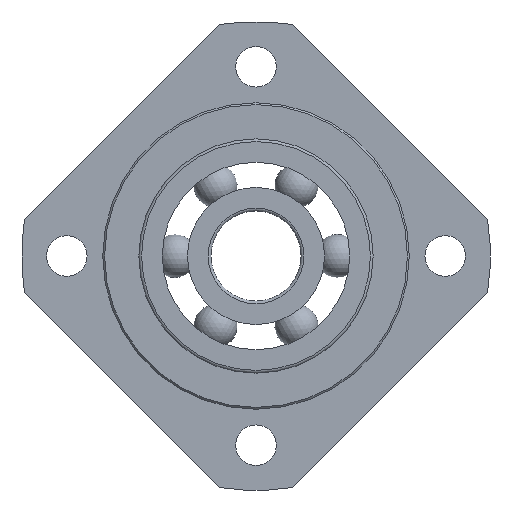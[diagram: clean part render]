
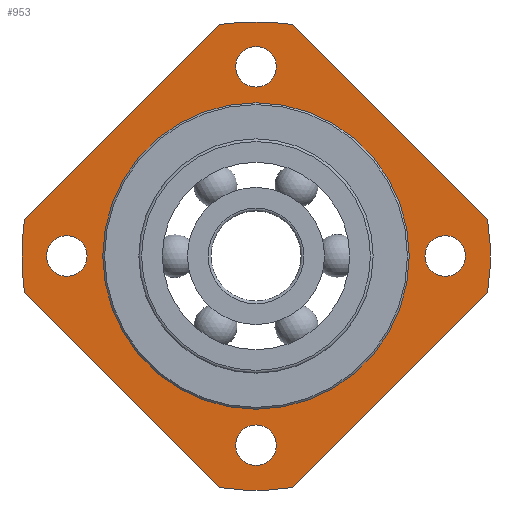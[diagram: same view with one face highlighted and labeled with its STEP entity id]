
A CAD part, left-side view. The second image highlights one B-rep face of the part: STEP entity #953.
In plain terms, the highlighted planar face has unit normal (-1, 0, 0).
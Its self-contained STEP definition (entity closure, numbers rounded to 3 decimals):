
#66=LINE('',#1614,#86);
#70=LINE('',#1623,#90);
#75=LINE('',#1663,#95);
#76=LINE('',#1664,#96);
#86=VECTOR('',#1255,30.659);
#90=VECTOR('',#1265,30.659);
#95=VECTOR('',#1316,30.659);
#96=VECTOR('',#1317,30.659);
#109=PLANE('',#1063);
#161=FACE_BOUND('',#317,.T.);
#162=FACE_BOUND('',#318,.T.);
#163=FACE_BOUND('',#319,.T.);
#164=FACE_BOUND('',#320,.T.);
#165=FACE_BOUND('',#321,.T.);
#227=FACE_OUTER_BOUND('',#316,.T.);
#316=EDGE_LOOP('',(#768,#769,#770,#771,#772,#773,#774,#775));
#317=EDGE_LOOP('',(#776));
#318=EDGE_LOOP('',(#777));
#319=EDGE_LOOP('',(#778));
#320=EDGE_LOOP('',(#779));
#321=EDGE_LOOP('',(#780));
#378=CIRCLE('',#995,17.);
#401=CIRCLE('',#1039,26.);
#402=CIRCLE('',#1042,26.);
#404=CIRCLE('',#1046,2.25);
#406=CIRCLE('',#1050,2.25);
#408=CIRCLE('',#1054,2.25);
#410=CIRCLE('',#1058,2.25);
#411=CIRCLE('',#1060,26.);
#412=CIRCLE('',#1062,26.);
#463=VERTEX_POINT('',#1497);
#494=VERTEX_POINT('',#1611);
#495=VERTEX_POINT('',#1613);
#496=VERTEX_POINT('',#1617);
#497=VERTEX_POINT('',#1621);
#498=VERTEX_POINT('',#1625);
#500=VERTEX_POINT('',#1632);
#502=VERTEX_POINT('',#1638);
#504=VERTEX_POINT('',#1644);
#506=VERTEX_POINT('',#1650);
#507=VERTEX_POINT('',#1653);
#508=VERTEX_POINT('',#1657);
#509=VERTEX_POINT('',#1659);
#548=EDGE_CURVE('',#463,#463,#378,.T.);
#588=EDGE_CURVE('',#494,#495,#66,.T.);
#591=EDGE_CURVE('',#494,#496,#401,.T.);
#593=EDGE_CURVE('',#497,#496,#70,.T.);
#595=EDGE_CURVE('',#497,#498,#402,.T.);
#597=EDGE_CURVE('',#500,#500,#404,.T.);
#599=EDGE_CURVE('',#502,#502,#406,.T.);
#601=EDGE_CURVE('',#504,#504,#408,.T.);
#603=EDGE_CURVE('',#506,#506,#410,.T.);
#604=EDGE_CURVE('',#507,#495,#411,.T.);
#607=EDGE_CURVE('',#509,#508,#412,.T.);
#609=EDGE_CURVE('',#509,#498,#75,.T.);
#610=EDGE_CURVE('',#507,#508,#76,.T.);
#768=ORIENTED_EDGE('',*,*,#591,.T.);
#769=ORIENTED_EDGE('',*,*,#593,.F.);
#770=ORIENTED_EDGE('',*,*,#595,.T.);
#771=ORIENTED_EDGE('',*,*,#609,.F.);
#772=ORIENTED_EDGE('',*,*,#607,.T.);
#773=ORIENTED_EDGE('',*,*,#610,.F.);
#774=ORIENTED_EDGE('',*,*,#604,.T.);
#775=ORIENTED_EDGE('',*,*,#588,.F.);
#776=ORIENTED_EDGE('',*,*,#548,.T.);
#777=ORIENTED_EDGE('',*,*,#597,.T.);
#778=ORIENTED_EDGE('',*,*,#599,.T.);
#779=ORIENTED_EDGE('',*,*,#601,.T.);
#780=ORIENTED_EDGE('',*,*,#603,.T.);
#953=ADVANCED_FACE('',(#227,#161,#162,#163,#164,#165),#109,.F.);
#995=AXIS2_PLACEMENT_3D('',#1498,#1160,#1161);
#1039=AXIS2_PLACEMENT_3D('',#1619,#1260,#1261);
#1042=AXIS2_PLACEMENT_3D('',#1627,#1269,#1270);
#1046=AXIS2_PLACEMENT_3D('',#1633,#1277,#1278);
#1050=AXIS2_PLACEMENT_3D('',#1639,#1285,#1286);
#1054=AXIS2_PLACEMENT_3D('',#1645,#1293,#1294);
#1058=AXIS2_PLACEMENT_3D('',#1651,#1301,#1302);
#1060=AXIS2_PLACEMENT_3D('',#1654,#1305,#1306);
#1062=AXIS2_PLACEMENT_3D('',#1660,#1311,#1312);
#1063=AXIS2_PLACEMENT_3D('',#1662,#1314,#1315);
#1160=DIRECTION('center_axis',(1.,0.,0.));
#1161=DIRECTION('ref_axis',(0.,0.,-1.));
#1255=DIRECTION('',(0.,0.707,-0.707));
#1260=DIRECTION('center_axis',(-1.,0.,0.));
#1261=DIRECTION('ref_axis',(0.,0.,1.));
#1265=DIRECTION('',(0.,-0.707,-0.707));
#1269=DIRECTION('center_axis',(-1.,0.,0.));
#1270=DIRECTION('ref_axis',(0.,0.,1.));
#1277=DIRECTION('center_axis',(1.,0.,0.));
#1278=DIRECTION('ref_axis',(0.,0.,-1.));
#1285=DIRECTION('center_axis',(1.,0.,0.));
#1286=DIRECTION('ref_axis',(0.,0.,-1.));
#1293=DIRECTION('center_axis',(1.,0.,0.));
#1294=DIRECTION('ref_axis',(0.,0.,-1.));
#1301=DIRECTION('center_axis',(1.,0.,0.));
#1302=DIRECTION('ref_axis',(0.,0.,-1.));
#1305=DIRECTION('center_axis',(-1.,0.,0.));
#1306=DIRECTION('ref_axis',(0.,0.,1.));
#1311=DIRECTION('center_axis',(-1.,0.,0.));
#1312=DIRECTION('ref_axis',(0.,0.,1.));
#1314=DIRECTION('center_axis',(1.,0.,0.));
#1315=DIRECTION('ref_axis',(0.,0.,-1.));
#1316=DIRECTION('',(0.,-0.707,0.707));
#1317=DIRECTION('',(0.,0.707,0.707));
#1497=CARTESIAN_POINT('',(0.,0.,17.));
#1498=CARTESIAN_POINT('Origin',(0.,0.,0.));
#1611=CARTESIAN_POINT('',(0.,-25.689,-4.01));
#1613=CARTESIAN_POINT('',(0.,-4.01,-25.689));
#1614=CARTESIAN_POINT('',(0.,-29.698,0.));
#1617=CARTESIAN_POINT('',(0.,-25.689,4.01));
#1619=CARTESIAN_POINT('Origin',(0.,0.,0.));
#1621=CARTESIAN_POINT('',(0.,-4.01,25.689));
#1623=CARTESIAN_POINT('',(0.,0.,29.698));
#1625=CARTESIAN_POINT('',(0.,4.01,25.689));
#1627=CARTESIAN_POINT('Origin',(0.,0.,0.));
#1632=CARTESIAN_POINT('',(0.,-21.,2.25));
#1633=CARTESIAN_POINT('Origin',(0.,-21.,0.));
#1638=CARTESIAN_POINT('',(0.,21.,2.25));
#1639=CARTESIAN_POINT('Origin',(0.,21.,0.));
#1644=CARTESIAN_POINT('',(0.,0.,-18.75));
#1645=CARTESIAN_POINT('Origin',(0.,0.,-21.));
#1650=CARTESIAN_POINT('',(0.,0.,23.25));
#1651=CARTESIAN_POINT('Origin',(0.,0.,21.));
#1653=CARTESIAN_POINT('',(0.,4.01,-25.689));
#1654=CARTESIAN_POINT('Origin',(0.,0.,0.));
#1657=CARTESIAN_POINT('',(0.,25.689,-4.01));
#1659=CARTESIAN_POINT('',(0.,25.689,4.01));
#1660=CARTESIAN_POINT('Origin',(0.,0.,0.));
#1662=CARTESIAN_POINT('Origin',(0.,10.5,10.5));
#1663=CARTESIAN_POINT('',(0.,29.698,0.));
#1664=CARTESIAN_POINT('',(0.,0.,-29.698));
